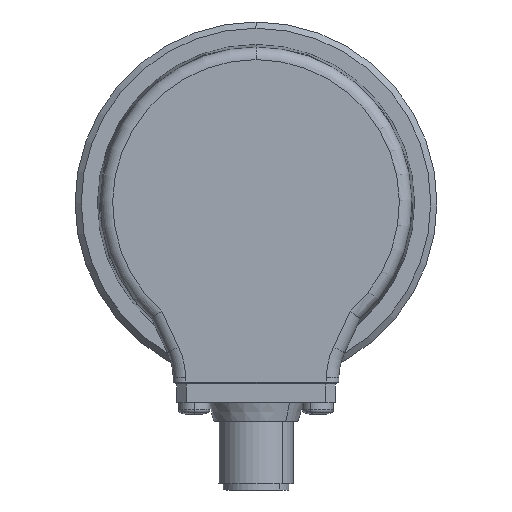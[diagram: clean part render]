
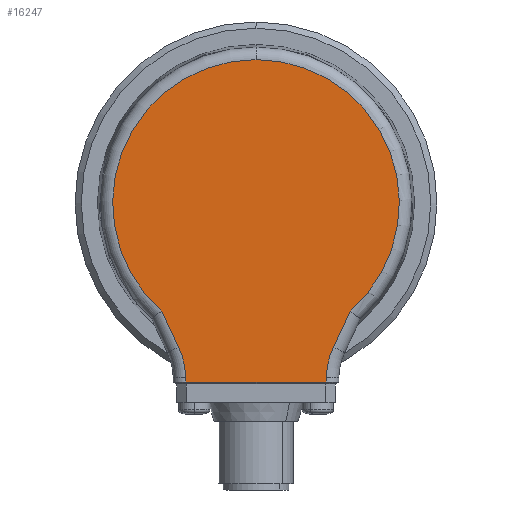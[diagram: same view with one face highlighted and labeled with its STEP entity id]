
A CAD part, left-side view. The second image highlights one B-rep face of the part: STEP entity #16247.
In plain terms, the highlighted planar face has unit normal (-1, 0, 0).
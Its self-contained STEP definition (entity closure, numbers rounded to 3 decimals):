
#6182 = EDGE_CURVE ( 'NONE', #6184, #6185, #20637, .T. ) ;
#6184 = VERTEX_POINT ( 'NONE', #20633 ) ;
#6185 = VERTEX_POINT ( 'NONE', #20632 ) ;
#14723 = DIRECTION ( 'NONE',  ( 0., 0., 1. ) ) ;
#14724 = DIRECTION ( 'NONE',  ( 1., 0., 0. ) ) ;
#14725 = CARTESIAN_POINT ( 'NONE',  ( -21., 23.266, -28.183 ) ) ;
#14726 = AXIS2_PLACEMENT_3D ( 'NONE', #14725, #14724, #14723 ) ;
#14727 = CIRCLE ( 'NONE', #14726, 12. ) ;
#14729 = CARTESIAN_POINT ( 'NONE',  ( -21., 12.39, -23.112 ) ) ;
#14730 = DIRECTION ( 'NONE',  ( 0., -0.423, -0.906 ) ) ;
#14731 = VECTOR ( 'NONE', #14730, 1000. ) ;
#14732 = CARTESIAN_POINT ( 'NONE',  ( -21., 12.39, -23.112 ) ) ;
#14733 = LINE ( 'NONE', #14732, #14731 ) ;
#14752 = FACE_OUTER_BOUND ( 'NONE', #16248, .T. ) ;
#14767 = CARTESIAN_POINT ( 'NONE',  ( -21., -11.268, -27.974 ) ) ;
#14768 = DIRECTION ( 'NONE',  ( 0., -0.017, 1. ) ) ;
#14769 = VECTOR ( 'NONE', #14768, 1000. ) ;
#14770 = CARTESIAN_POINT ( 'NONE',  ( -21., -11.752, -0.205 ) ) ;
#14771 = LINE ( 'NONE', #14770, #14769 ) ;
#14772 = CARTESIAN_POINT ( 'NONE',  ( -21., -11.255, -28.695 ) ) ;
#14773 = DIRECTION ( 'NONE',  ( 0., -1., 0. ) ) ;
#14774 = VECTOR ( 'NONE', #14773, 1000. ) ;
#14775 = CARTESIAN_POINT ( 'NONE',  ( -21., -11.25, -28.695 ) ) ;
#14776 = LINE ( 'NONE', #14775, #14774 ) ;
#14777 = CARTESIAN_POINT ( 'NONE',  ( -21., 11.255, -28.695 ) ) ;
#14778 = CARTESIAN_POINT ( 'NONE',  ( -21., 11.268, -27.974 ) ) ;
#14779 = DIRECTION ( 'NONE',  ( 0., -0.017, -1. ) ) ;
#14780 = VECTOR ( 'NONE', #14779, 1000. ) ;
#14781 = CARTESIAN_POINT ( 'NONE',  ( -21., 11.752, -0.205 ) ) ;
#14782 = DIRECTION ( 'NONE',  ( 0., 0., 1. ) ) ;
#14783 = DIRECTION ( 'NONE',  ( 1., 0., 0. ) ) ;
#14784 = CARTESIAN_POINT ( 'NONE',  ( -21., 0., 0. ) ) ;
#14785 = AXIS2_PLACEMENT_3D ( 'NONE', #14784, #14783, #14782 ) ;
#14786 = LINE ( 'NONE', #14781, #14780 ) ;
#14787 = PLANE ( 'NONE',  #14785 ) ;
#14816 = DIRECTION ( 'NONE',  ( 0., 0., 1. ) ) ;
#14817 = DIRECTION ( 'NONE',  ( 1., 0., 0. ) ) ;
#14818 = CARTESIAN_POINT ( 'NONE',  ( -21., -23.266, -28.183 ) ) ;
#14819 = AXIS2_PLACEMENT_3D ( 'NONE', #14818, #14817, #14816 ) ;
#14820 = CIRCLE ( 'NONE', #14819, 12. ) ;
#14946 = DIRECTION ( 'NONE',  ( 0., 0., 1. ) ) ;
#14947 = DIRECTION ( 'NONE',  ( -1., 0., 0. ) ) ;
#14948 = CARTESIAN_POINT ( 'NONE',  ( -21., 0., 0. ) ) ;
#14949 = AXIS2_PLACEMENT_3D ( 'NONE', #14948, #14947, #14946 ) ;
#14950 = CIRCLE ( 'NONE', #14949, 22.972 ) ;
#14951 = CARTESIAN_POINT ( 'NONE',  ( -21., -15.091, -17.32 ) ) ;
#14952 = DIRECTION ( 'NONE',  ( 0., -0.423, 0.906 ) ) ;
#14953 = VECTOR ( 'NONE', #14952, 1000. ) ;
#14954 = CARTESIAN_POINT ( 'NONE',  ( -21., -14.953, -17.615 ) ) ;
#14955 = LINE ( 'NONE', #14954, #14953 ) ;
#14956 = CARTESIAN_POINT ( 'NONE',  ( -21., -12.39, -23.112 ) ) ;
#16240 = EDGE_CURVE ( 'NONE', #6185, #16241, #14733, .T. ) ;
#16241 = VERTEX_POINT ( 'NONE', #14729 ) ;
#16242 = ORIENTED_EDGE ( 'NONE', *, *, #16243, .T. ) ;
#16243 = EDGE_CURVE ( 'NONE', #16241, #16251, #14727, .T. ) ;
#16247 = ADVANCED_FACE ( 'NONE', ( #14752 ), #14787, .F. ) ;
#16248 = EDGE_LOOP ( 'NONE', ( #16249, #16253, #16256, #16259, #16316, #16319, #16321, #16322, #16242 ) ) ;
#16249 = ORIENTED_EDGE ( 'NONE', *, *, #16250, .T. ) ;
#16250 = EDGE_CURVE ( 'NONE', #16251, #16252, #14786, .T. ) ;
#16251 = VERTEX_POINT ( 'NONE', #14778 ) ;
#16252 = VERTEX_POINT ( 'NONE', #14777 ) ;
#16253 = ORIENTED_EDGE ( 'NONE', *, *, #16254, .T. ) ;
#16254 = EDGE_CURVE ( 'NONE', #16252, #16255, #14776, .T. ) ;
#16255 = VERTEX_POINT ( 'NONE', #14772 ) ;
#16256 = ORIENTED_EDGE ( 'NONE', *, *, #16257, .T. ) ;
#16257 = EDGE_CURVE ( 'NONE', #16255, #16258, #14771, .T. ) ;
#16258 = VERTEX_POINT ( 'NONE', #14767 ) ;
#16259 = ORIENTED_EDGE ( 'NONE', *, *, #16260, .T. ) ;
#16260 = EDGE_CURVE ( 'NONE', #16258, #16315, #14820, .T. ) ;
#16315 = VERTEX_POINT ( 'NONE', #14956 ) ;
#16316 = ORIENTED_EDGE ( 'NONE', *, *, #16317, .T. ) ;
#16317 = EDGE_CURVE ( 'NONE', #16315, #16318, #14955, .T. ) ;
#16318 = VERTEX_POINT ( 'NONE', #14951 ) ;
#16319 = ORIENTED_EDGE ( 'NONE', *, *, #16320, .T. ) ;
#16320 = EDGE_CURVE ( 'NONE', #16318, #6184, #14950, .T. ) ;
#16321 = ORIENTED_EDGE ( 'NONE', *, *, #6182, .T. ) ;
#16322 = ORIENTED_EDGE ( 'NONE', *, *, #16240, .T. ) ;
#20581 = CARTESIAN_POINT ( 'NONE',  ( -21., 0., 0. ) ) ;
#20632 = CARTESIAN_POINT ( 'NONE',  ( -21., 15.091, -17.32 ) ) ;
#20633 = CARTESIAN_POINT ( 'NONE',  ( -21., 0., 22.972 ) ) ;
#20634 = DIRECTION ( 'NONE',  ( 0., 0., 1. ) ) ;
#20635 = DIRECTION ( 'NONE',  ( -1., 0., 0. ) ) ;
#20636 = AXIS2_PLACEMENT_3D ( 'NONE', #20581, #20635, #20634 ) ;
#20637 = CIRCLE ( 'NONE', #20636, 22.972 ) ;
